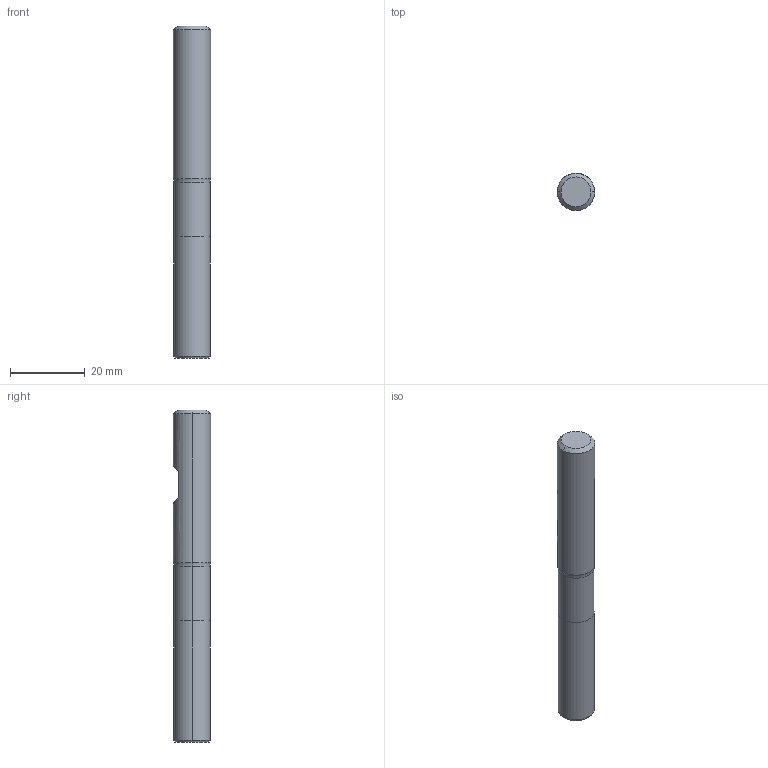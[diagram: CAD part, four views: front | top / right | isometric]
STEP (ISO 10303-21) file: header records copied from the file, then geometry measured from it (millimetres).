
FILE_DESCRIPTION (( 'STEP AP214' ), '1' );
FILE_NAME ('817.097.10_3D-model.step', '2022-02-23T23:53:00', ( '' ), ( '' ), 'SwSTEP 2.0', 'SolidWorks 2020', '' );
FILE_SCHEMA (( 'AUTOMOTIVE_DESIGN' ));
Length unit declared in the file: millimetre
Products named in the file (3): 817.097.10_3D-model; CUT-3D^Baugr137; NOCUT-3D^Baugr137
Assembly tree (2 placements, depth 2):
  817.097.10_3D-model
    CUT-3D^Baugr137
    NOCUT-3D^Baugr137
Bounding box: 10 x 10 x 89 mm (x, y, z)
Volume: 6691.1 mm3; surface area: 3024.9 mm2
Topology: 2 solids, 2 shells, 19 faces, 34 edges, 20 vertices
Faces by surface type: plane 7, cylinder 6, cone 4, torus 2
Entity records: 584 total; most frequent: DIRECTION 104, CARTESIAN_POINT 87, ORIENTED_EDGE 68, AXIS2_PLACEMENT_3D 45, EDGE_CURVE 34, EDGE_LOOP 20, VERTEX_POINT 20, ADVANCED_FACE 19
